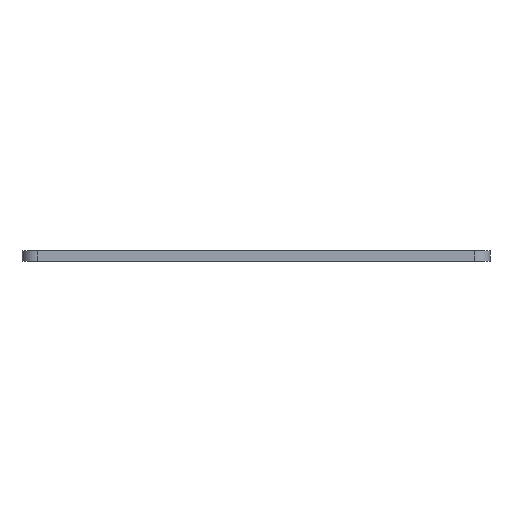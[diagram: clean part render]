
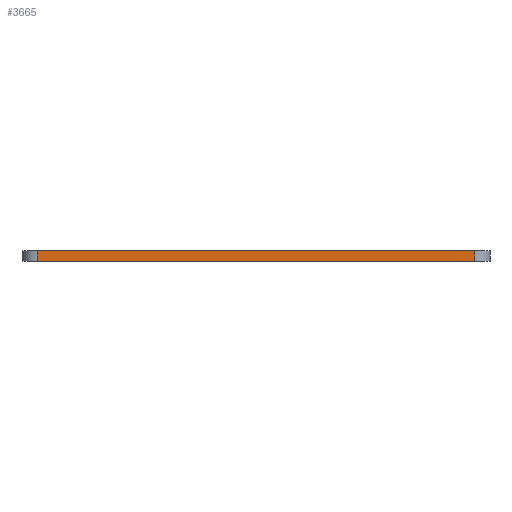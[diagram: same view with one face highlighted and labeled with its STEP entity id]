
A CAD part, left-side view. The second image highlights one B-rep face of the part: STEP entity #3665.
In plain terms, the highlighted planar face has unit normal (-1, 0, 0).
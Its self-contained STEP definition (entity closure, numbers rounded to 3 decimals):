
#146 = VERTEX_POINT('',#147);
#147 = CARTESIAN_POINT('',(139.,-70.25,0.));
#154 = EDGE_CURVE('',#155,#146,#157,.T.);
#155 = VERTEX_POINT('',#156);
#156 = CARTESIAN_POINT('',(139.,-133.75,0.));
#157 = LINE('',#158,#159);
#158 = CARTESIAN_POINT('',(139.,-133.75,0.));
#159 = VECTOR('',#160,1.);
#160 = DIRECTION('',(0.,1.,0.));
#1892 = VERTEX_POINT('',#1893);
#1893 = CARTESIAN_POINT('',(139.,-70.25,1.51));
#1900 = EDGE_CURVE('',#1901,#1892,#1903,.T.);
#1901 = VERTEX_POINT('',#1902);
#1902 = CARTESIAN_POINT('',(139.,-133.75,1.51));
#1903 = LINE('',#1904,#1905);
#1904 = CARTESIAN_POINT('',(139.,-133.75,1.51));
#1905 = VECTOR('',#1906,1.);
#1906 = DIRECTION('',(0.,1.,0.));
#3635 = EDGE_CURVE('',#146,#1892,#3636,.T.);
#3636 = LINE('',#3637,#3638);
#3637 = CARTESIAN_POINT('',(139.,-70.25,0.));
#3638 = VECTOR('',#3639,1.);
#3639 = DIRECTION('',(0.,0.,1.));
#3665 = ADVANCED_FACE('',(#3666),#3677,.T.);
#3666 = FACE_BOUND('',#3667,.T.);
#3667 = EDGE_LOOP('',(#3668,#3674,#3675,#3676));
#3668 = ORIENTED_EDGE('',*,*,#3669,.T.);
#3669 = EDGE_CURVE('',#155,#1901,#3670,.T.);
#3670 = LINE('',#3671,#3672);
#3671 = CARTESIAN_POINT('',(139.,-133.75,0.));
#3672 = VECTOR('',#3673,1.);
#3673 = DIRECTION('',(0.,0.,1.));
#3674 = ORIENTED_EDGE('',*,*,#1900,.T.);
#3675 = ORIENTED_EDGE('',*,*,#3635,.F.);
#3676 = ORIENTED_EDGE('',*,*,#154,.F.);
#3677 = PLANE('',#3678);
#3678 = AXIS2_PLACEMENT_3D('',#3679,#3680,#3681);
#3679 = CARTESIAN_POINT('',(139.,-133.75,0.));
#3680 = DIRECTION('',(-1.,0.,0.));
#3681 = DIRECTION('',(0.,1.,0.));
